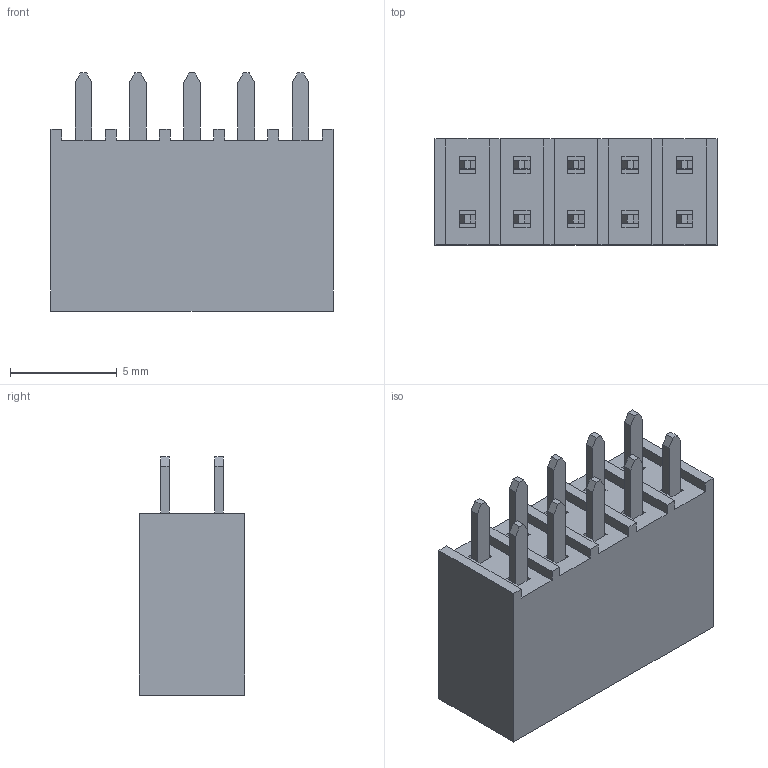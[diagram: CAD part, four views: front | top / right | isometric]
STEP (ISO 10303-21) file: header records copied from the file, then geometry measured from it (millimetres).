
FILE_DESCRIPTION(('FreeCAD Model'),'2;1');
FILE_NAME('C:\Users\cr185092\Documents\KiCAD_Projects\VORON_V2.0_Expander_option2\VORON_V2.0.pretty\3D_Models\2X5_PIN_SOCKET.step','2017-11-19T09:28:50',('kicad StepUp'),('ksu MCAD') ,'Open CASCADE STEP processor 6.8','FreeCAD','Unknown');
FILE_SCHEMA(('AUTOMOTIVE_DESIGN_CC2 { 1 2 10303 214 -1 1 5 4 }'));
Length unit declared in the file: millimetre
Products named in the file (1): 2X5_PIN_SOCKET
Bounding box: 13.21 x 4.95 x 11.15 mm (x, y, z)
Volume: 493.1 mm3; surface area: 777.1 mm2
Topology: 1 solids, 1 shells, 226 faces, 572 edges, 368 vertices
Faces by surface type: plane 226
Entity records: 8191 total; most frequent: CARTESIAN_POINT 1167, ORIENTED_EDGE 1144, DIRECTION 1026, EDGE_CURVE 572, LINE 572, VECTOR 572, VERTEX_POINT 368, FACE_BOUND 246
